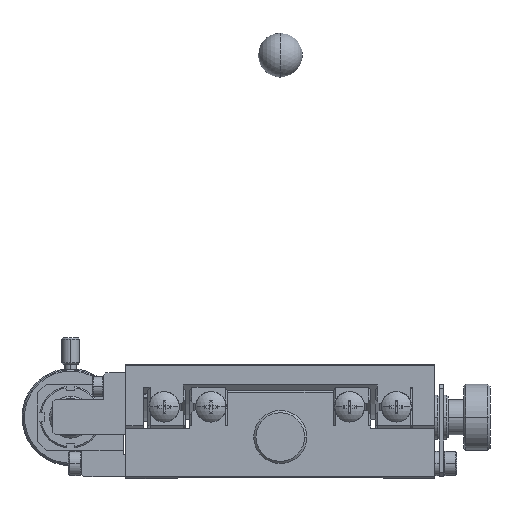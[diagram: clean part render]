
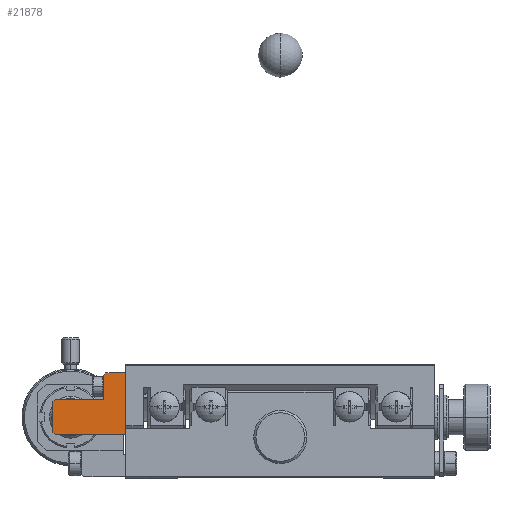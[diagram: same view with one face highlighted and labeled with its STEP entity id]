
A CAD part, left-side view. The second image highlights one B-rep face of the part: STEP entity #21878.
In plain terms, the highlighted planar face has unit normal (-1, 0, 0).
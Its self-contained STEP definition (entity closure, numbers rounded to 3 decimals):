
#17691 = EDGE_CURVE ( 'NONE', #17693, #17695, #39577, .T. ) ;
#17693 = VERTEX_POINT ( 'NONE', #39569 ) ;
#17695 = VERTEX_POINT ( 'NONE', #39568 ) ;
#21838 = ORIENTED_EDGE ( 'NONE', *, *, #21840, .F. ) ;
#21840 = EDGE_CURVE ( 'NONE', #21842, #21893, #43406, .T. ) ;
#21842 = VERTEX_POINT ( 'NONE', #43402 ) ;
#21844 = ORIENTED_EDGE ( 'NONE', *, *, #21846, .F. ) ;
#21846 = EDGE_CURVE ( 'NONE', #21848, #21842, #43401, .T. ) ;
#21848 = VERTEX_POINT ( 'NONE', #43397 ) ;
#21850 = ORIENTED_EDGE ( 'NONE', *, *, #21852, .F. ) ;
#21852 = EDGE_CURVE ( 'NONE', #17695, #21848, #43396, .T. ) ;
#21854 = ORIENTED_EDGE ( 'NONE', *, *, #17691, .F. ) ;
#21856 = ORIENTED_EDGE ( 'NONE', *, *, #21858, .F. ) ;
#21858 = EDGE_CURVE ( 'NONE', #21860, #17693, #43392, .T. ) ;
#21860 = VERTEX_POINT ( 'NONE', #43453 ) ;
#21862 = ORIENTED_EDGE ( 'NONE', *, *, #21864, .F. ) ;
#21864 = EDGE_CURVE ( 'NONE', #21867, #21860, #43452, .T. ) ;
#21867 = VERTEX_POINT ( 'NONE', #43448 ) ;
#21878 = ADVANCED_FACE ( 'NONE', ( #43438 ), #43437, .T. ) ;
#21881 = EDGE_LOOP ( 'NONE', ( #21883, #21888, #21838, #21844, #21850, #21854, #21856, #21862, #21965 ) ) ;
#21883 = ORIENTED_EDGE ( 'NONE', *, *, #21884, .F. ) ;
#21884 = EDGE_CURVE ( 'NONE', #21885, #21886, #43432, .T. ) ;
#21885 = VERTEX_POINT ( 'NONE', #43428 ) ;
#21886 = VERTEX_POINT ( 'NONE', #43427 ) ;
#21888 = ORIENTED_EDGE ( 'NONE', *, *, #21890, .F. ) ;
#21890 = EDGE_CURVE ( 'NONE', #21893, #21885, #43426, .T. ) ;
#21893 = VERTEX_POINT ( 'NONE', #43486 ) ;
#21965 = ORIENTED_EDGE ( 'NONE', *, *, #21966, .F. ) ;
#21966 = EDGE_CURVE ( 'NONE', #21886, #21867, #43493, .T. ) ;
#39568 = CARTESIAN_POINT ( 'NONE',  ( -5., 35., -16. ) ) ;
#39569 = CARTESIAN_POINT ( 'NONE',  ( -5., 35., -2. ) ) ;
#39570 = DIRECTION ( 'NONE',  ( 0., 0., -1. ) ) ;
#39571 = VECTOR ( 'NONE', #39570, 1000. ) ;
#39572 = CARTESIAN_POINT ( 'NONE',  ( -5., 35., -2. ) ) ;
#39577 = LINE ( 'NONE', #39572, #39571 ) ;
#43389 = DIRECTION ( 'NONE',  ( 0., -1., 0. ) ) ;
#43390 = VECTOR ( 'NONE', #43389, 1000. ) ;
#43391 = CARTESIAN_POINT ( 'NONE',  ( -5., 39.5, -2. ) ) ;
#43392 = LINE ( 'NONE', #43391, #43390 ) ;
#43393 = DIRECTION ( 'NONE',  ( 0., 1., 0. ) ) ;
#43394 = VECTOR ( 'NONE', #43393, 1000. ) ;
#43395 = CARTESIAN_POINT ( 'NONE',  ( -5., 35., -16. ) ) ;
#43396 = LINE ( 'NONE', #43395, #43394 ) ;
#43397 = CARTESIAN_POINT ( 'NONE',  ( -5., 51., -16. ) ) ;
#43398 = DIRECTION ( 'NONE',  ( 0., 0.707, 0.707 ) ) ;
#43399 = VECTOR ( 'NONE', #43398, 1000. ) ;
#43400 = CARTESIAN_POINT ( 'NONE',  ( -5., 51., -16. ) ) ;
#43401 = LINE ( 'NONE', #43400, #43399 ) ;
#43402 = CARTESIAN_POINT ( 'NONE',  ( -5., 51.5, -15.5 ) ) ;
#43403 = DIRECTION ( 'NONE',  ( 0., 0., 1. ) ) ;
#43404 = VECTOR ( 'NONE', #43403, 1000. ) ;
#43405 = CARTESIAN_POINT ( 'NONE',  ( -5., 51.5, -15.5 ) ) ;
#43406 = LINE ( 'NONE', #43405, #43404 ) ;
#43423 = DIRECTION ( 'NONE',  ( 0., -0.707, 0.707 ) ) ;
#43424 = VECTOR ( 'NONE', #43423, 1000. ) ;
#43425 = CARTESIAN_POINT ( 'NONE',  ( -5., 51.5, -8.5 ) ) ;
#43426 = LINE ( 'NONE', #43425, #43424 ) ;
#43427 = CARTESIAN_POINT ( 'NONE',  ( -5., 40., -8. ) ) ;
#43428 = CARTESIAN_POINT ( 'NONE',  ( -5., 51., -8. ) ) ;
#43429 = DIRECTION ( 'NONE',  ( 0., -1., 0. ) ) ;
#43430 = VECTOR ( 'NONE', #43429, 1000. ) ;
#43431 = CARTESIAN_POINT ( 'NONE',  ( -5., 51., -8. ) ) ;
#43432 = LINE ( 'NONE', #43431, #43430 ) ;
#43433 = DIRECTION ( 'NONE',  ( 0., 0., -1. ) ) ;
#43434 = DIRECTION ( 'NONE',  ( -1., 0., 0. ) ) ;
#43435 = CARTESIAN_POINT ( 'NONE',  ( -5., 40., -8. ) ) ;
#43436 = AXIS2_PLACEMENT_3D ( 'NONE', #43435, #43434, #43433 ) ;
#43437 = PLANE ( 'NONE',  #43436 ) ;
#43438 = FACE_OUTER_BOUND ( 'NONE', #21881, .T. ) ;
#43448 = CARTESIAN_POINT ( 'NONE',  ( -5., 40., -2.5 ) ) ;
#43449 = DIRECTION ( 'NONE',  ( 0., -0.707, 0.707 ) ) ;
#43450 = VECTOR ( 'NONE', #43449, 1000. ) ;
#43451 = CARTESIAN_POINT ( 'NONE',  ( -5., 40., -2.5 ) ) ;
#43452 = LINE ( 'NONE', #43451, #43450 ) ;
#43453 = CARTESIAN_POINT ( 'NONE',  ( -5., 39.5, -2. ) ) ;
#43486 = CARTESIAN_POINT ( 'NONE',  ( -5., 51.5, -8.5 ) ) ;
#43490 = DIRECTION ( 'NONE',  ( 0., 0., 1. ) ) ;
#43491 = VECTOR ( 'NONE', #43490, 1000. ) ;
#43492 = CARTESIAN_POINT ( 'NONE',  ( -5., 40., -8. ) ) ;
#43493 = LINE ( 'NONE', #43492, #43491 ) ;
